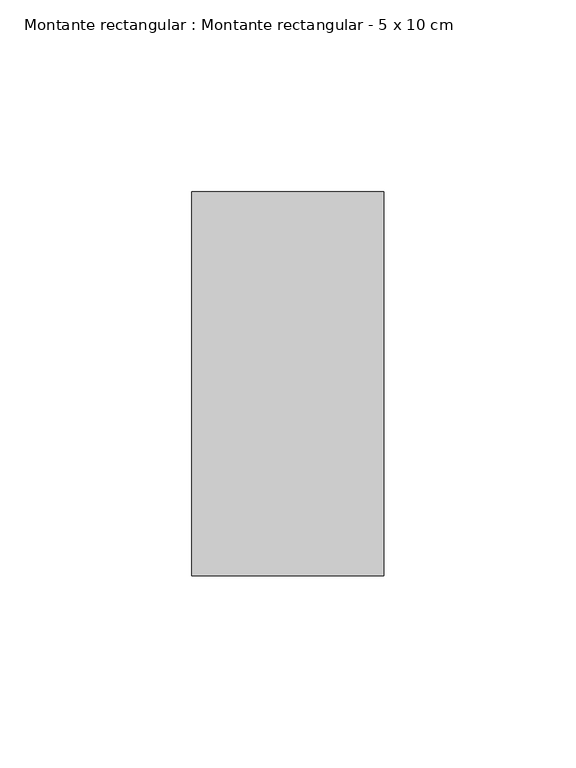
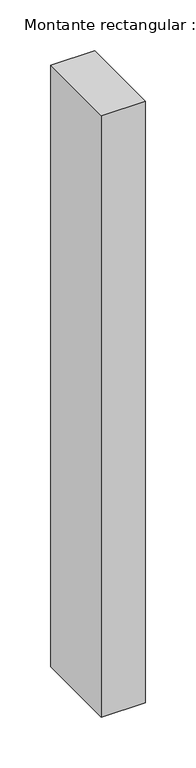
"""IFC4 building model written with IfcOpenShell, lengths in millimetres: member geometry, Montante rectangular : Montante rectangular - 5 x 10 cm."""

from ifc_helpers import new_model, si_unit, frame, origin, place, context, project, spatial, polyline, outline, extrude, source, transform, mapped, element, save


def montante_rectangular_montante_rectangular_5_x_10_cm_a827199d(model_context):
    return source(origin(), model_context, "Body", "SweptSolid", [
        extrude(outline(polyline([(-50.0, 50.0), (0.0, 50.0), (0.0, -50.0), (-50.0, -50.0), (-50.0, 50.0)])), frame((0.0, 0.0, -725.0), z_axis=(0.0, 0.0, 1.0), x_axis=(1.0, 0.0, 0.0)), (0.0, 0.0, 1.0), 725.0),
    ])


if __name__ == "__main__":
    model = new_model("IFC4")
    model_context = context("Model", 3, world=origin())
    ifc_project = project(units=[si_unit("LENGTHUNIT", "METRE", prefix="MILLI")], contexts=[model_context])
    site = spatial("IfcSite", under=ifc_project)
    building = spatial("IfcBuilding", under=site)
    placement = place(None, origin())
    montante_rectangular_montante_rectangular_5_x_10_cm_shape = montante_rectangular_montante_rectangular_5_x_10_cm_a827199d(model_context)
    element("IfcMember", 1, ObjectType="Montante rectangular : Montante rectangular - 5 x 10 cm", at=placement, inside=building, context=model_context, shape_type="MappedRepresentation", body=[
        mapped(montante_rectangular_montante_rectangular_5_x_10_cm_shape, transform((0.0, 0.0, 0.0), x_axis=(1.0, 0.0, 0.0), y_axis=(0.0, 1.0, 0.0), z_axis=(0.0, 0.0, 1.0))),
    ])
    save(model, "model.ifc")
